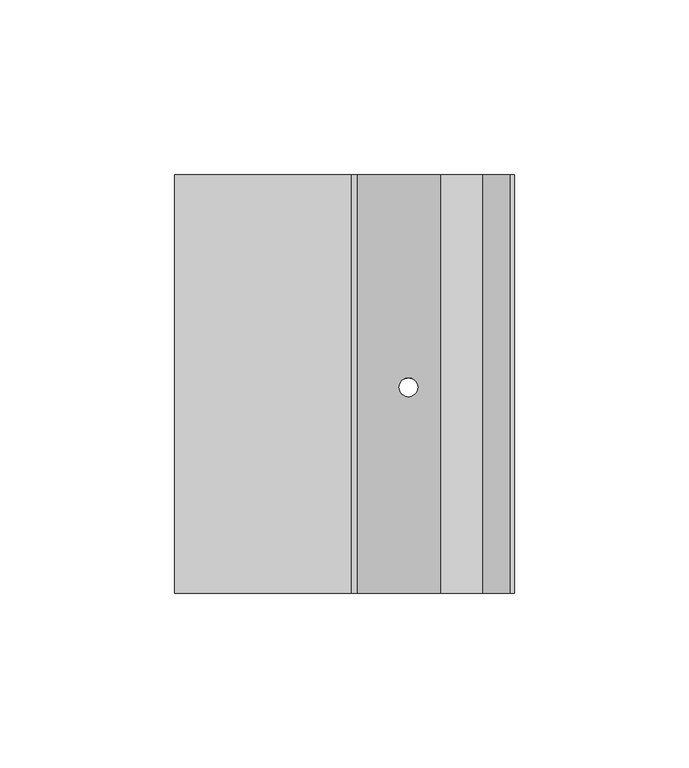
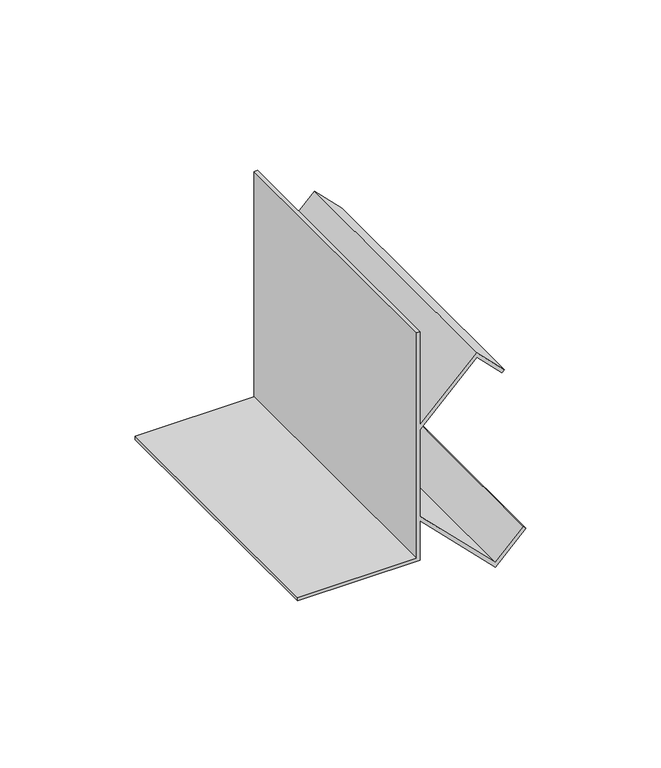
"""IFC4 building model written with IfcOpenShell, lengths in millimetres: proxy geometry, Mechanical Fittings & Accessories34 : Mechanical Fittings & Accessories."""

from ifc_helpers import new_model, si_unit, frame, origin, place, context, project, spatial, polyline, ellipse_curve, source, transform, mapped, element, save
from ifc_brep_helpers import plane_surface, revolved_surface, advanced_brep


def generic_models_f1c45e2f(model_context):
    return source(origin(), model_context, "Body", "AdvancedBrep", [
        advanced_brep(
        [(-14670.9639562, 4565.4963986, 4114.8), (-14721.7639562, 4565.4963986, 4114.8), (-14721.7639562, 4565.4963986, 4113.3117188), (-14669.475675, 4565.4963986, 4113.3117188), (-14669.475675, 4565.4963986, 4131.1383509), (-14637.365914, 4565.4963986, 4099.0285899), (-14624.3869427, 4565.4963986, 4112.0075612), (-14625.4393164, 4565.4963986, 4113.059935), (-14637.365914, 4565.4963986, 4101.1333374), (-14669.475675, 4565.4963986, 4133.2430984), (-14669.475675, 4565.4963986, 4172.2761118), (-14645.303414, 4565.4963986, 4196.4483729), (-14634.5674414, 4565.4963986, 4185.7124003), (-14633.5150677, 4565.4963986, 4186.7647741), (-14645.303414, 4565.4963986, 4198.5531204), (-14669.475675, 4565.4963986, 4174.3808594), (-14669.475675, 4565.4963986, 4216.4), (-14670.9639562, 4565.4963986, 4216.4), (-14670.9639562, 4685.4645457, 4114.8), (-14670.9639562, 4685.4645457, 4216.4), (-14669.475675, 4685.4645457, 4216.4), (-14669.475675, 4685.4645457, 4174.3808594), (-14645.303414, 4685.4645457, 4198.5531204), (-14633.5150677, 4685.4645457, 4186.7647741), (-14634.5674414, 4685.4645457, 4185.7124003), (-14645.303414, 4685.4645457, 4196.4483729), (-14669.475675, 4685.4645457, 4172.2761118), (-14669.475675, 4685.4645457, 4133.2430984), (-14637.365914, 4685.4645457, 4101.1333374), (-14625.4393164, 4685.4645457, 4113.059935), (-14624.3869427, 4685.4645457, 4112.0075612), (-14637.365914, 4685.4645457, 4099.0285899), (-14669.475675, 4685.4645457, 4131.1383509), (-14669.475675, 4685.4645457, 4113.3117188), (-14721.7639562, 4685.4645457, 4113.3117188), (-14721.7639562, 4685.4645457, 4114.8), (-14657.3617646, 4624.5191481, 4119.0244406), (-14652.0223978, 4624.5191481, 4113.6850737), (-14652.0223978, 4624.5191481, 4115.7898213), (-14657.3617646, 4624.5191481, 4121.1291881), (-14657.3617646, 4624.5191481, 4184.3900222), (-14652.0223978, 4624.5191481, 4189.729389), (-14652.0223978, 4624.5191481, 4191.8341365), (-14657.3617646, 4624.5191481, 4186.4947697)],
        [
            (0, 1),
            (1, 2),
            (2, 3),
            (3, 4),
            (4, 5),
            (5, 6),
            (6, 7),
            (7, 8),
            (8, 9),
            (9, 10),
            (10, 11),
            (11, 12),
            (12, 13),
            (13, 14),
            (14, 15),
            (15, 16),
            (16, 17),
            (17, 0),
            (18, 19),
            (19, 20),
            (20, 21),
            (21, 22),
            (22, 23),
            (23, 24),
            (24, 25),
            (25, 26),
            (26, 27),
            (27, 28),
            (28, 29),
            (29, 30),
            (30, 31),
            (31, 32),
            (32, 33),
            (33, 34),
            (34, 35),
            (35, 18),
            (0, 18),
            (35, 1),
            (34, 2),
            (33, 3),
            (32, 4),
            (31, 5),
            (36, 37, ellipse_curve(frame((-14654.6920812, 4624.5191481, 4116.3547571), z_axis=(0.7071067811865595, 0.0, 0.7071067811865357), x_axis=(-0.7071067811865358, 0.0, 0.7071067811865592)), 3.7755025, 2.6696834)),
            (37, 36, ellipse_curve(frame((-14654.6920812, 4624.5191481, 4116.3547571), z_axis=(0.7071067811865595, 0.0, 0.7071067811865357), x_axis=(-0.7071067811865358, 0.0, 0.7071067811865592)), 3.7755025, 2.6696834)),
            (30, 6),
            (29, 7),
            (28, 8),
            (27, 9),
            (38, 39, ellipse_curve(frame((-14654.6920812, 4624.5191481, 4118.4595047), z_axis=(-0.7071067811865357, 0.0, -0.7071067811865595), x_axis=(-0.7071067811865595, 0.0, 0.7071067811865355)), 3.7755025, 2.6696834)),
            (39, 38, ellipse_curve(frame((-14654.6920812, 4624.5191481, 4118.4595047), z_axis=(-0.7071067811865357, 0.0, -0.7071067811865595), x_axis=(-0.7071067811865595, 0.0, 0.7071067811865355)), 3.7755025, 2.6696834)),
            (26, 10),
            (25, 11),
            (40, 41, ellipse_curve(frame((-14654.6920812, 4624.5191481, 4187.0597056), z_axis=(-0.7071067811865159, 0.0, 0.7071067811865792), x_axis=(0.7071067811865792, 0.0, 0.7071067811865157)), 3.7755025, 2.6696834)),
            (41, 40, ellipse_curve(frame((-14654.6920812, 4624.5191481, 4187.0597056), z_axis=(-0.7071067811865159, 0.0, 0.7071067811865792), x_axis=(0.7071067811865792, 0.0, 0.7071067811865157)), 3.7755025, 2.6696834)),
            (24, 12),
            (23, 13),
            (22, 14),
            (21, 15),
            (42, 43, ellipse_curve(frame((-14654.6920812, 4624.5191481, 4189.1644531), z_axis=(0.7071067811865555, 0.0, -0.7071067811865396), x_axis=(0.7071067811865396, 0.0, 0.7071067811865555)), 3.7755025, 2.6696834)),
            (43, 42, ellipse_curve(frame((-14654.6920812, 4624.5191481, 4189.1644531), z_axis=(0.7071067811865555, 0.0, -0.7071067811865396), x_axis=(0.7071067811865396, 0.0, 0.7071067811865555)), 3.7755025, 2.6696834)),
            (20, 16),
            (19, 17),
            (36, 39),
            (38, 37),
            (40, 43),
            (42, 41),
        ],
        [
            plane_surface(frame((-14721.7639562, 4565.4963986, 4114.8), z_axis=(0.0, -1.0, 0.0), x_axis=(-1.0, 0.0, 0.0))),
            plane_surface(frame((-14721.7639562, 4685.4645457, 4114.8), z_axis=(0.0, 1.0, 0.0), x_axis=(1.0, 0.0, 0.0))),
            plane_surface(frame((-14670.9639562, 4565.4963986, 4114.8), z_axis=(0.0, 0.0, 1.0), x_axis=(0.0, 1.0, 0.0))),
            plane_surface(frame((-14721.7639562, 4565.4963986, 4114.8), z_axis=(-1.0, 0.0, 0.0), x_axis=(0.0, 1.0, 0.0))),
            plane_surface(frame((-14721.7639562, 4565.4963986, 4113.3117188), z_axis=(0.0, 0.0, -1.0), x_axis=(0.0, 1.0, 0.0))),
            plane_surface(frame((-14669.475675, 4565.4963986, 4113.3117188), z_axis=(1.0, 0.0, 0.0), x_axis=(0.0, 1.0, 0.0))),
            plane_surface(frame((-14669.475675, 4565.4963986, 4131.1383509), z_axis=(-0.7071067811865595, 0.0, -0.7071067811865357), x_axis=(0.0, 1.0, 0.0))),
            plane_surface(frame((-14637.365914, 4565.4963986, 4099.0285899), z_axis=(0.7071067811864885, 0.0, -0.7071067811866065), x_axis=(0.0, 1.0, 0.0))),
            plane_surface(frame((-14624.3869427, 4565.4963986, 4112.0075612), z_axis=(0.7071067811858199, 0.0, 0.7071067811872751), x_axis=(0.0, 1.0, 0.0))),
            plane_surface(frame((-14625.4393164, 4565.4963986, 4113.059935), z_axis=(-0.7071067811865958, 0.0, 0.7071067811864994), x_axis=(0.0, 1.0, 0.0))),
            plane_surface(frame((-14637.365914, 4565.4963986, 4101.1333374), z_axis=(0.7071067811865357, 0.0, 0.7071067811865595), x_axis=(0.0, 1.0, 0.0))),
            plane_surface(frame((-14669.475675, 4565.4963986, 4133.2430984), z_axis=(1.0, 0.0, 0.0), x_axis=(0.0, 1.0, 0.0))),
            plane_surface(frame((-14669.475675, 4565.4963986, 4172.2761118), z_axis=(0.7071067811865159, 0.0, -0.7071067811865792), x_axis=(0.0, 1.0, 0.0))),
            plane_surface(frame((-14645.303414, 4565.4963986, 4196.4483729), z_axis=(-0.7071067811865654, 0.0, -0.7071067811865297), x_axis=(0.0, 1.0, 0.0))),
            plane_surface(frame((-14634.5674414, 4565.4963986, 4185.7124003), z_axis=(0.7071067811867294, 0.0, -0.7071067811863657), x_axis=(0.0, 1.0, 0.0))),
            plane_surface(frame((-14633.5150677, 4565.4963986, 4186.7647741), z_axis=(0.707106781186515, 0.0, 0.70710678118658), x_axis=(0.0, 1.0, 0.0))),
            plane_surface(frame((-14645.303414, 4565.4963986, 4198.5531204), z_axis=(-0.7071067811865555, 0.0, 0.7071067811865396), x_axis=(0.0, 1.0, 0.0))),
            plane_surface(frame((-14669.475675, 4565.4963986, 4174.3808594), z_axis=(1.0, 0.0, 0.0), x_axis=(0.0, 1.0, 0.0))),
            plane_surface(frame((-14669.475675, 4565.4963986, 4216.4), z_axis=(0.0, 0.0, 1.0), x_axis=(0.0, 1.0, 0.0))),
            plane_surface(frame((-14670.9639562, 4565.4963986, 4216.4), z_axis=(-1.0, 0.0, 0.0), x_axis=(0.0, 1.0, 0.0))),
            revolved_surface(polyline([(-14652.022397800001, 4624.5191481, 4121.129188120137), (-14652.022397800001, 4624.5191481, 4113.685073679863)]), (-14654.6920812, 4624.5191481, 4097.2034211), (0.0, 0.0, 1.0)),
            revolved_surface(polyline([(-14652.022397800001, 4624.5191481, 4191.834136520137), (-14652.022397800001, 4624.5191481, 4184.390022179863)]), (-14654.6920812, 4624.5191481, 4097.2034211), (0.0, 0.0, 1.0)),
        ],
        [
            (0, [[1, 2, 3, 4, 5, 6, 7, 8, 9, 10, 11, 12, 13, 14, 15, 16, 17, 18]]),
            (1, [[19, 20, 21, 22, 23, 24, 25, 26, 27, 28, 29, 30, 31, 32, 33, 34, 35, 36]]),
            (2, [[-1, 37, -36, 38]]),
            (3, [[-2, -38, -35, 39]]),
            (4, [[-3, -39, -34, 40]]),
            (5, [[-4, -40, -33, 41]]),
            (6, [[-5, -41, -32, 42], [43, 44]]),
            (7, [[-6, -42, -31, 45]]),
            (8, [[-7, -45, -30, 46]]),
            (9, [[-8, -46, -29, 47]]),
            (10, [[-9, -47, -28, 48], [49, 50]]),
            (11, [[-10, -48, -27, 51]]),
            (12, [[-11, -51, -26, 52], [53, 54]]),
            (13, [[-12, -52, -25, 55]]),
            (14, [[-13, -55, -24, 56]]),
            (15, [[-14, -56, -23, 57]]),
            (16, [[-15, -57, -22, 58], [59, 60]]),
            (17, [[-16, -58, -21, 61]]),
            (18, [[-17, -61, -20, 62]]),
            (19, [[-18, -62, -19, -37]]),
            (20, [[63, -49, 64, -43]]),
            (21, [[65, -59, 66, -53]]),
            (20, [[-63, -44, -64, -50]]),
            (21, [[-65, -54, -66, -60]]),
        ],
    ),
    ])


if __name__ == "__main__":
    model = new_model("IFC4")
    model_context = context("Model", 3, world=origin())
    ifc_project = project(units=[si_unit("LENGTHUNIT", "METRE", prefix="MILLI")], contexts=[model_context])
    site = spatial("IfcSite", under=ifc_project)
    building = spatial("IfcBuilding", under=site)
    placement = place(None, origin())
    generic_models_shape = generic_models_f1c45e2f(model_context)
    element("IfcBuildingElementProxy", 1, Name="Mechanical Fittings & Accessories34 : Mechanical Fittings & Accessories", ObjectType="Mechanical Fittings & Accessories34 : Mechanical Fittings & Accessories", at=placement, inside=building, context=model_context, shape_type="MappedRepresentation", body=[
        mapped(generic_models_shape, transform((0.0, 0.0, 0.0), x_axis=(1.0, 0.0, 0.0), y_axis=(0.0, 1.0, 0.0), z_axis=(0.0, 0.0, 1.0))),
    ])
    save(model, "model.ifc")
